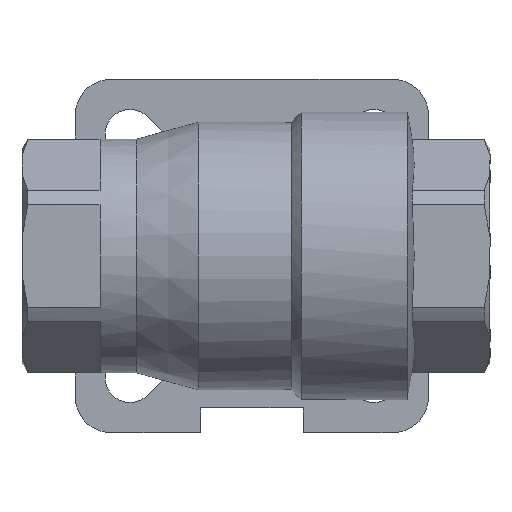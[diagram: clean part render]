
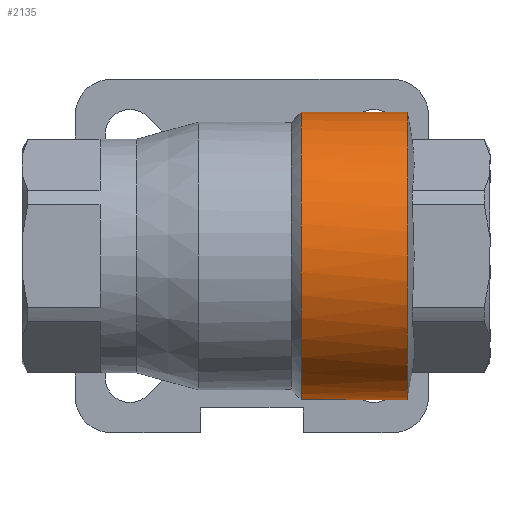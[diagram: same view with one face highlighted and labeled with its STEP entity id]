
A CAD part, front view. The second image highlights one B-rep face of the part: STEP entity #2135.
In plain terms, the highlighted cylindrical face has radius 17.5 mm (diameter 35 mm), a full revolution.
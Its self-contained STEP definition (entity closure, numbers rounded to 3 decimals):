
#10 = B_SPLINE_CURVE_WITH_KNOTS ( 'NONE', 3,
 ( #1955, #1958, #1949, #1947, #1943, #1938, #1933, #1929, #1927, #1925, #1922, #1919, #1916, #1914, #1912, #1911, #1910, #1907, #1906, #1899, #1898, #1896, #1887, #1885, #1883, #1882, #1879, #1876 ),
 .UNSPECIFIED., .F., .F.,
 ( 4, 2, 2, 2, 2, 2, 2, 2, 2, 2, 2, 2, 2, 4 ),
 ( 0., 0.003, 0.004, 0.005, 0.006, 0.008, 0.01, 0.011, 0.013, 0.014, 0.015, 0.017, 0.018, 0.02 ),
 .UNSPECIFIED. ) ;
#49 = CYLINDRICAL_SURFACE ( 'NONE', #1618, 17.5 ) ;
#80 = FACE_OUTER_BOUND ( 'NONE', #2041, .T. ) ;
#85 = FACE_OUTER_BOUND ( 'NONE', #2362, .T. ) ;
#256 = DIRECTION ( 'NONE',  ( -1., 0., 0. ) ) ;
#269 = CARTESIAN_POINT ( 'NONE',  ( -55.019, 0., 0. ) ) ;
#274 = DIRECTION ( 'NONE',  ( 0., 0., 1. ) ) ;
#591 = ORIENTED_EDGE ( 'NONE', *, *, #896, .T. ) ;
#703 = CARTESIAN_POINT ( 'NONE',  ( 18.927, 0., 17.5 ) ) ;
#727 = CARTESIAN_POINT ( 'NONE',  ( 6., 15.3, 8.495 ) ) ;
#784 = VERTEX_POINT ( 'NONE', #2390 ) ;
#827 = ORIENTED_EDGE ( 'NONE', *, *, #880, .F. ) ;
#849 = EDGE_CURVE ( 'NONE', #784, #1763, #1251, .T. ) ;
#880 = EDGE_CURVE ( 'NONE', #1763, #784, #10, .T. ) ;
#896 = EDGE_CURVE ( 'NONE', #2454, #2454, #1210, .T. ) ;
#1210 = CIRCLE ( 'NONE', #3021, 17.5 ) ;
#1251 = CIRCLE ( 'NONE', #3063, 17.5 ) ;
#1618 = AXIS2_PLACEMENT_3D ( 'NONE', #269, #256, #274 ) ;
#1763 = VERTEX_POINT ( 'NONE', #727 ) ;
#1770 = ORIENTED_EDGE ( 'NONE', *, *, #849, .F. ) ;
#1855 = DIRECTION ( 'NONE',  ( 0., 0., 1. ) ) ;
#1861 = DIRECTION ( 'NONE',  ( -1., 0., 0. ) ) ;
#1864 = CARTESIAN_POINT ( 'NONE',  ( 18.927, 0., 0. ) ) ;
#1876 = CARTESIAN_POINT ( 'NONE',  ( 6., 15.3, -8.495 ) ) ;
#1879 = CARTESIAN_POINT ( 'NONE',  ( 6.669, 15.562, -8.022 ) ) ;
#1882 = CARTESIAN_POINT ( 'NONE',  ( 7.269, 15.834, -7.482 ) ) ;
#1883 = CARTESIAN_POINT ( 'NONE',  ( 8.075, 16.225, -6.566 ) ) ;
#1885 = CARTESIAN_POINT ( 'NONE',  ( 8.329, 16.353, -6.241 ) ) ;
#1887 = CARTESIAN_POINT ( 'NONE',  ( 8.795, 16.595, -5.566 ) ) ;
#1896 = CARTESIAN_POINT ( 'NONE',  ( 9.007, 16.709, -5.215 ) ) ;
#1898 = CARTESIAN_POINT ( 'NONE',  ( 9.392, 16.92, -4.485 ) ) ;
#1899 = CARTESIAN_POINT ( 'NONE',  ( 9.564, 17.016, -4.106 ) ) ;
#1906 = CARTESIAN_POINT ( 'NONE',  ( 9.866, 17.187, -3.318 ) ) ;
#1907 = CARTESIAN_POINT ( 'NONE',  ( 9.992, 17.26, -2.917 ) ) ;
#1910 = CARTESIAN_POINT ( 'NONE',  ( 10.195, 17.379, -2.099 ) ) ;
#1911 = CARTESIAN_POINT ( 'NONE',  ( 10.272, 17.424, -1.684 ) ) ;
#1912 = CARTESIAN_POINT ( 'NONE',  ( 10.375, 17.485, -0.837 ) ) ;
#1914 = CARTESIAN_POINT ( 'NONE',  ( 10.401, 17.5, -0.405 ) ) ;
#1916 = CARTESIAN_POINT ( 'NONE',  ( 10.398, 17.499, 0.871 ) ) ;
#1919 = CARTESIAN_POINT ( 'NONE',  ( 10.294, 17.436, 1.709 ) ) ;
#1922 = CARTESIAN_POINT ( 'NONE',  ( 9.983, 17.255, 2.948 ) ) ;
#1925 = CARTESIAN_POINT ( 'NONE',  ( 9.855, 17.181, 3.349 ) ) ;
#1927 = CARTESIAN_POINT ( 'NONE',  ( 9.556, 17.012, 4.124 ) ) ;
#1929 = CARTESIAN_POINT ( 'NONE',  ( 9.385, 16.916, 4.499 ) ) ;
#1933 = CARTESIAN_POINT ( 'NONE',  ( 9.002, 16.706, 5.225 ) ) ;
#1938 = CARTESIAN_POINT ( 'NONE',  ( 8.789, 16.592, 5.575 ) ) ;
#1943 = CARTESIAN_POINT ( 'NONE',  ( 8.321, 16.349, 6.253 ) ) ;
#1947 = CARTESIAN_POINT ( 'NONE',  ( 8.069, 16.222, 6.574 ) ) ;
#1949 = CARTESIAN_POINT ( 'NONE',  ( 7.267, 15.833, 7.484 ) ) ;
#1955 = CARTESIAN_POINT ( 'NONE',  ( 6., 15.3, 8.495 ) ) ;
#1958 = CARTESIAN_POINT ( 'NONE',  ( 6.669, 15.562, 8.022 ) ) ;
#2021 = DIRECTION ( 'NONE',  ( 0., 0., 1. ) ) ;
#2022 = DIRECTION ( 'NONE',  ( -1., 0., 0. ) ) ;
#2025 = CARTESIAN_POINT ( 'NONE',  ( 6., 0., 0. ) ) ;
#2041 = EDGE_LOOP ( 'NONE', ( #827, #1770 ) ) ;
#2135 = ADVANCED_FACE ( 'NONE', ( #80, #85 ), #49, .T. ) ;
#2362 = EDGE_LOOP ( 'NONE', ( #591 ) ) ;
#2390 = CARTESIAN_POINT ( 'NONE',  ( 6., 15.3, -8.495 ) ) ;
#2454 = VERTEX_POINT ( 'NONE', #703 ) ;
#3021 = AXIS2_PLACEMENT_3D ( 'NONE', #1864, #1861, #1855 ) ;
#3063 = AXIS2_PLACEMENT_3D ( 'NONE', #2025, #2022, #2021 ) ;
